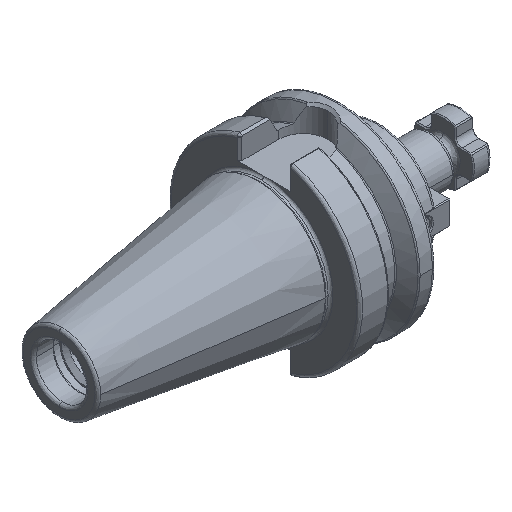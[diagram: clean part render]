
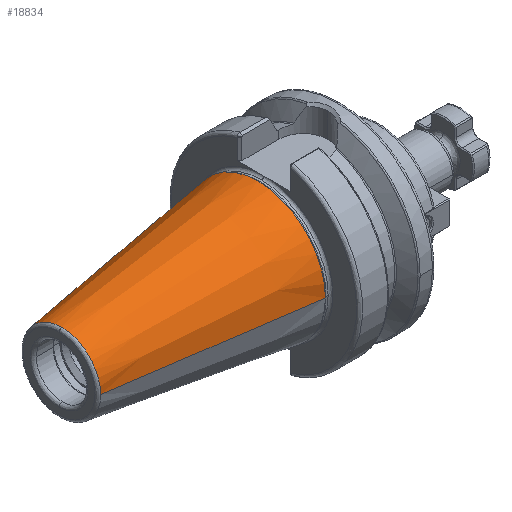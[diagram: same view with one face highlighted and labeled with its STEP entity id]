
A CAD part, isometric view. The second image highlights one B-rep face of the part: STEP entity #18834.
In plain terms, the highlighted conical face has half-angle 8.297 degrees and reference radius 22.225 mm.
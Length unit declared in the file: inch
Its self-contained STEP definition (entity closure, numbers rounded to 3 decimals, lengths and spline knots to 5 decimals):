
#40 = EDGE_LOOP ( 'NONE', ( #5655, #8901, #9404, #12123, #13138 ) ) ;
#492 = LINE ( 'NONE', #9694, #12987 ) ;
#1095 = VERTEX_POINT ( 'NONE', #16028 ) ;
#1114 = LINE ( 'NONE', #3918, #10173 ) ;
#1272 = FACE_OUTER_BOUND ( 'NONE', #40, .T. ) ;
#1673 = AXIS2_PLACEMENT_3D ( 'NONE', #3716, #2165, #5142 ) ;
#2165 = DIRECTION ( 'NONE',  ( -1., 0., 0. ) ) ;
#3359 = VERTEX_POINT ( 'NONE', #3911 ) ;
#3716 = CARTESIAN_POINT ( 'NONE',  ( 0., 0., 0. ) ) ;
#3768 = DIRECTION ( 'NONE',  ( 0., 1., 0. ) ) ;
#3911 = CARTESIAN_POINT ( 'NONE',  ( -2.54111, -0.50442, 0. ) ) ;
#3918 = CARTESIAN_POINT ( 'NONE',  ( 0., 0.875, 0. ) ) ;
#4124 = VERTEX_POINT ( 'NONE', #6044 ) ;
#4292 = CIRCLE ( 'NONE', #1673, 0.875 ) ;
#4558 = CARTESIAN_POINT ( 'NONE',  ( 0., 0., 0. ) ) ;
#5142 = DIRECTION ( 'NONE',  ( 0., 1., 0. ) ) ;
#5653 = DIRECTION ( 'NONE',  ( 0.99, 0.144, 0. ) ) ;
#5655 = ORIENTED_EDGE ( 'NONE', *, *, #19559, .T. ) ;
#6044 = CARTESIAN_POINT ( 'NONE',  ( -2.54111, 0., 0.50442 ) ) ;
#6927 = AXIS2_PLACEMENT_3D ( 'NONE', #4558, #10867, #16952 ) ;
#6986 = CARTESIAN_POINT ( 'NONE',  ( -2.54111, 0., 0. ) ) ;
#7397 = CIRCLE ( 'NONE', #18912, 0.50442 ) ;
#7938 = AXIS2_PLACEMENT_3D ( 'NONE', #18193, #16164, #13136 ) ;
#8592 = CONICAL_SURFACE ( 'NONE', #6927, 0.875, 0.145 ) ;
#8629 = EDGE_CURVE ( 'NONE', #13291, #1095, #1114, .T. ) ;
#8901 = ORIENTED_EDGE ( 'NONE', *, *, #11483, .T. ) ;
#9404 = ORIENTED_EDGE ( 'NONE', *, *, #12159, .T. ) ;
#9694 = CARTESIAN_POINT ( 'NONE',  ( 0., -0.875, 0. ) ) ;
#10173 = VECTOR ( 'NONE', #5653, 39.37008 ) ;
#10582 = VERTEX_POINT ( 'NONE', #18809 ) ;
#10867 = DIRECTION ( 'NONE',  ( 1., 0., 0. ) ) ;
#11483 = EDGE_CURVE ( 'NONE', #4124, #3359, #7397, .T. ) ;
#11608 = DIRECTION ( 'NONE',  ( 1., 0., 0. ) ) ;
#12123 = ORIENTED_EDGE ( 'NONE', *, *, #19985, .T. ) ;
#12159 = EDGE_CURVE ( 'NONE', #3359, #10582, #492, .T. ) ;
#12987 = VECTOR ( 'NONE', #16299, 39.37008 ) ;
#13136 = DIRECTION ( 'NONE',  ( 0., 1., 0. ) ) ;
#13138 = ORIENTED_EDGE ( 'NONE', *, *, #8629, .F. ) ;
#13291 = VERTEX_POINT ( 'NONE', #17967 ) ;
#16028 = CARTESIAN_POINT ( 'NONE',  ( 0., 0.875, 0. ) ) ;
#16164 = DIRECTION ( 'NONE',  ( 1., 0., 0. ) ) ;
#16299 = DIRECTION ( 'NONE',  ( 0.99, -0.144, 0. ) ) ;
#16816 = CIRCLE ( 'NONE', #7938, 0.50442 ) ;
#16952 = DIRECTION ( 'NONE',  ( 0., 1., 0. ) ) ;
#17967 = CARTESIAN_POINT ( 'NONE',  ( -2.54111, 0.50442, 0. ) ) ;
#18193 = CARTESIAN_POINT ( 'NONE',  ( -2.54111, 0., 0. ) ) ;
#18809 = CARTESIAN_POINT ( 'NONE',  ( 0., -0.875, 0. ) ) ;
#18834 = ADVANCED_FACE ( 'NONE', ( #1272 ), #8592, .T. ) ;
#18912 = AXIS2_PLACEMENT_3D ( 'NONE', #6986, #11608, #3768 ) ;
#19559 = EDGE_CURVE ( 'NONE', #13291, #4124, #16816, .T. ) ;
#19985 = EDGE_CURVE ( 'NONE', #10582, #1095, #4292, .T. ) ;
